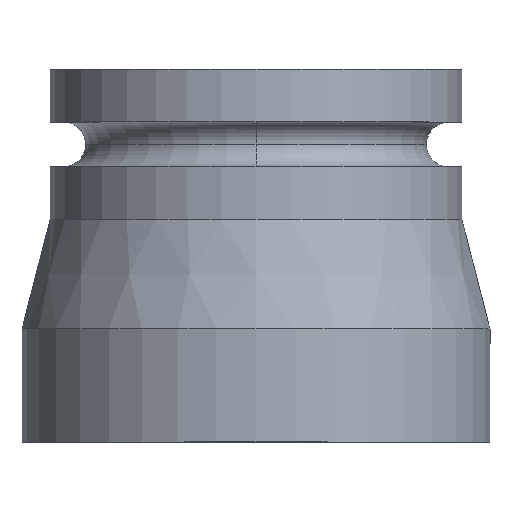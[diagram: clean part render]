
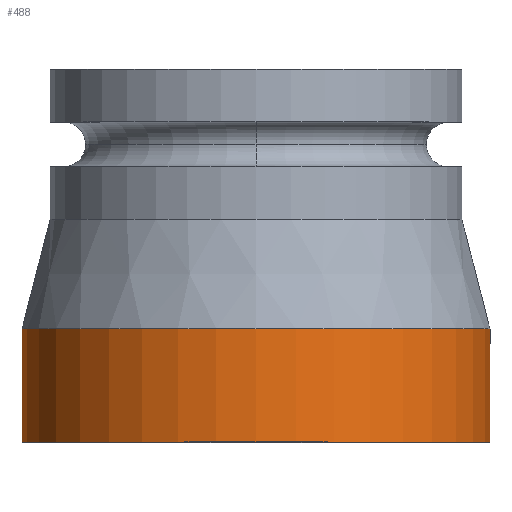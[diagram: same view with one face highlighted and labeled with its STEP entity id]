
A CAD part, top view. The second image highlights one B-rep face of the part: STEP entity #488.
In plain terms, the highlighted cylindrical face has radius 12.5 mm (diameter 25 mm), a partial arc.
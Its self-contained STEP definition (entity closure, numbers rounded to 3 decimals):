
#11 = CARTESIAN_POINT ( 'NONE',  ( 0., 0., 0. ) ) ;
#101 = VERTEX_POINT ( 'NONE', #778 ) ;
#106 = VERTEX_POINT ( 'NONE', #566 ) ;
#122 = EDGE_CURVE ( 'NONE', #1132, #899, #796, .T. ) ;
#144 = CARTESIAN_POINT ( 'NONE',  ( -12.49, 6.05, 0.5 ) ) ;
#157 = AXIS2_PLACEMENT_3D ( 'NONE', #876, #691, #983 ) ;
#196 = FACE_OUTER_BOUND ( 'NONE', #952, .T. ) ;
#217 = EDGE_CURVE ( 'NONE', #106, #101, #889, .T. ) ;
#241 = EDGE_CURVE ( 'NONE', #106, #1132, #269, .T. ) ;
#253 = EDGE_CURVE ( 'NONE', #899, #101, #1034, .T. ) ;
#255 = DIRECTION ( 'NONE',  ( 0., -1., 0. ) ) ;
#269 = LINE ( 'NONE', #1206, #476 ) ;
#327 = DIRECTION ( 'NONE',  ( 0., -1., 0. ) ) ;
#389 = ORIENTED_EDGE ( 'NONE', *, *, #253, .T. ) ;
#476 = VECTOR ( 'NONE', #805, 1000. ) ;
#488 = ADVANCED_FACE ( 'NONE', ( #196 ), #1155, .T. ) ;
#566 = CARTESIAN_POINT ( 'NONE',  ( 12.49, 0., 0.5 ) ) ;
#609 = DIRECTION ( 'NONE',  ( 0., -1., 0. ) ) ;
#691 = DIRECTION ( 'NONE',  ( 0., -1., 0. ) ) ;
#699 = AXIS2_PLACEMENT_3D ( 'NONE', #1214, #255, #722 ) ;
#709 = VECTOR ( 'NONE', #609, 1000. ) ;
#713 = ORIENTED_EDGE ( 'NONE', *, *, #241, .T. ) ;
#722 = DIRECTION ( 'NONE',  ( 0., 0., -1. ) ) ;
#778 = CARTESIAN_POINT ( 'NONE',  ( -12.49, 0., 0.5 ) ) ;
#796 = CIRCLE ( 'NONE', #157, 12.5 ) ;
#797 = CARTESIAN_POINT ( 'NONE',  ( -12.49, 0., 0.5 ) ) ;
#805 = DIRECTION ( 'NONE',  ( 0., 1., 0. ) ) ;
#876 = CARTESIAN_POINT ( 'NONE',  ( 0., 6.05, 0. ) ) ;
#889 = CIRCLE ( 'NONE', #1013, 12.5 ) ;
#899 = VERTEX_POINT ( 'NONE', #144 ) ;
#952 = EDGE_LOOP ( 'NONE', ( #1157, #713, #976, #389 ) ) ;
#976 = ORIENTED_EDGE ( 'NONE', *, *, #122, .T. ) ;
#983 = DIRECTION ( 'NONE',  ( 0., 0., -1. ) ) ;
#1013 = AXIS2_PLACEMENT_3D ( 'NONE', #11, #327, #1113 ) ;
#1034 = LINE ( 'NONE', #797, #709 ) ;
#1113 = DIRECTION ( 'NONE',  ( 0., 0., -1. ) ) ;
#1132 = VERTEX_POINT ( 'NONE', #1217 ) ;
#1155 = CYLINDRICAL_SURFACE ( 'NONE', #699, 12.5 ) ;
#1157 = ORIENTED_EDGE ( 'NONE', *, *, #217, .F. ) ;
#1206 = CARTESIAN_POINT ( 'NONE',  ( 12.49, 0., 0.5 ) ) ;
#1214 = CARTESIAN_POINT ( 'NONE',  ( 0., 0., 0. ) ) ;
#1217 = CARTESIAN_POINT ( 'NONE',  ( 12.49, 6.05, 0.5 ) ) ;
